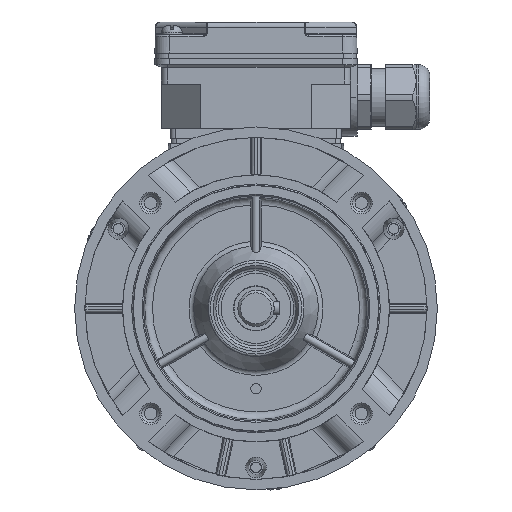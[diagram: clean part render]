
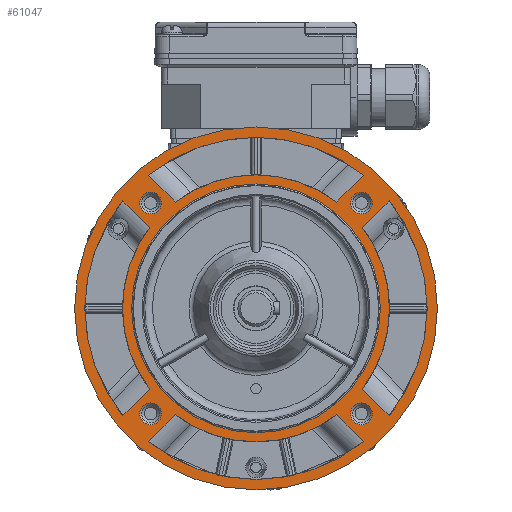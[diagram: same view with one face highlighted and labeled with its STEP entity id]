
A CAD part, front view. The second image highlights one B-rep face of the part: STEP entity #61047.
In plain terms, the highlighted planar face has unit normal (0, -1, 0).
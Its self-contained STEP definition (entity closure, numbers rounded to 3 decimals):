
#2294=LINE('',#94285,#4995);
#2295=LINE('',#94295,#4996);
#2296=LINE('',#94311,#4997);
#2297=LINE('',#94327,#4998);
#2298=LINE('',#94349,#4999);
#2299=LINE('',#94359,#5000);
#2300=LINE('',#94367,#5001);
#2301=LINE('',#94389,#5002);
#4995=VECTOR('',#73933,1000.);
#4996=VECTOR('',#73940,1000.);
#4997=VECTOR('',#73947,1000.);
#4998=VECTOR('',#73954,1000.);
#4999=VECTOR('',#73961,1000.);
#5000=VECTOR('',#73968,1000.);
#5001=VECTOR('',#73971,1000.);
#5002=VECTOR('',#73978,1000.);
#18193=ORIENTED_EDGE('',*,*,#26293,.T.);
#18194=ORIENTED_EDGE('',*,*,#26292,.T.);
#18195=ORIENTED_EDGE('',*,*,#26291,.T.);
#18196=ORIENTED_EDGE('',*,*,#26290,.T.);
#18197=ORIENTED_EDGE('',*,*,#26289,.F.);
#18198=ORIENTED_EDGE('',*,*,#26288,.F.);
#18199=ORIENTED_EDGE('',*,*,#26285,.T.);
#18200=ORIENTED_EDGE('',*,*,#26283,.T.);
#18201=ORIENTED_EDGE('',*,*,#26281,.T.);
#18202=ORIENTED_EDGE('',*,*,#26279,.F.);
#18203=ORIENTED_EDGE('',*,*,#26278,.F.);
#18204=ORIENTED_EDGE('',*,*,#26275,.T.);
#18205=ORIENTED_EDGE('',*,*,#26273,.T.);
#18206=ORIENTED_EDGE('',*,*,#26271,.F.);
#18207=ORIENTED_EDGE('',*,*,#26269,.F.);
#18208=ORIENTED_EDGE('',*,*,#26267,.T.);
#18209=ORIENTED_EDGE('',*,*,#26265,.T.);
#18210=ORIENTED_EDGE('',*,*,#26263,.F.);
#18211=ORIENTED_EDGE('',*,*,#26262,.F.);
#18212=ORIENTED_EDGE('',*,*,#26259,.T.);
#18213=ORIENTED_EDGE('',*,*,#26257,.T.);
#18214=ORIENTED_EDGE('',*,*,#26652,.T.);
#26257=EDGE_CURVE('',#31268,#31268,#33937,.F.);
#26259=EDGE_CURVE('',#31270,#31269,#33938,.T.);
#26262=EDGE_CURVE('',#31270,#31271,#2294,.T.);
#26263=EDGE_CURVE('',#31271,#31272,#33939,.T.);
#26265=EDGE_CURVE('',#31269,#31272,#2295,.T.);
#26267=EDGE_CURVE('',#31274,#31273,#33940,.T.);
#26269=EDGE_CURVE('',#31274,#31275,#2296,.T.);
#26271=EDGE_CURVE('',#31275,#31276,#33941,.T.);
#26273=EDGE_CURVE('',#31273,#31276,#2297,.T.);
#26275=EDGE_CURVE('',#31278,#31277,#33942,.T.);
#26278=EDGE_CURVE('',#31278,#31279,#2298,.T.);
#26279=EDGE_CURVE('',#31279,#31280,#33943,.T.);
#26281=EDGE_CURVE('',#31277,#31280,#2299,.T.);
#26283=EDGE_CURVE('',#31282,#31281,#2300,.T.);
#26285=EDGE_CURVE('',#31283,#31282,#33944,.T.);
#26288=EDGE_CURVE('',#31283,#31284,#2301,.T.);
#26289=EDGE_CURVE('',#31284,#31281,#33945,.T.);
#26290=EDGE_CURVE('',#31285,#31285,#33946,.F.);
#26291=EDGE_CURVE('',#31286,#31286,#33947,.F.);
#26292=EDGE_CURVE('',#31287,#31287,#33948,.F.);
#26293=EDGE_CURVE('',#31288,#31288,#33949,.F.);
#26652=EDGE_CURVE('',#31519,#31519,#34082,.T.);
#31268=VERTEX_POINT('',#94263);
#31269=VERTEX_POINT('',#94270);
#31270=VERTEX_POINT('',#94272);
#31271=VERTEX_POINT('',#94284);
#31272=VERTEX_POINT('',#94288);
#31273=VERTEX_POINT('',#94302);
#31274=VERTEX_POINT('',#94304);
#31275=VERTEX_POINT('',#94312);
#31276=VERTEX_POINT('',#94320);
#31277=VERTEX_POINT('',#94334);
#31278=VERTEX_POINT('',#94336);
#31279=VERTEX_POINT('',#94348);
#31280=VERTEX_POINT('',#94352);
#31281=VERTEX_POINT('',#94366);
#31282=VERTEX_POINT('',#94368);
#31283=VERTEX_POINT('',#94376);
#31284=VERTEX_POINT('',#94388);
#31285=VERTEX_POINT('',#94394);
#31286=VERTEX_POINT('',#94397);
#31287=VERTEX_POINT('',#94400);
#31288=VERTEX_POINT('',#94403);
#31519=VERTEX_POINT('',#96972);
#33937=CIRCLE('',#64704,48.);
#33938=CIRCLE('',#64706,51.5);
#33939=CIRCLE('',#64709,66.);
#33940=CIRCLE('',#64712,51.5);
#33941=CIRCLE('',#64715,66.);
#33942=CIRCLE('',#64718,51.5);
#33943=CIRCLE('',#64721,66.);
#33944=CIRCLE('',#64725,51.5);
#33945=CIRCLE('',#64728,66.);
#33946=CIRCLE('',#64730,4.2);
#33947=CIRCLE('',#64732,4.2);
#33948=CIRCLE('',#64734,4.2);
#33949=CIRCLE('',#64736,4.2);
#34082=CIRCLE('',#64952,70.);
#36710=EDGE_LOOP('',(#18193));
#36711=EDGE_LOOP('',(#18194));
#36712=EDGE_LOOP('',(#18195));
#36713=EDGE_LOOP('',(#18196));
#36714=EDGE_LOOP('',(#18197,#18198,#18199,#18200));
#36715=EDGE_LOOP('',(#18201,#18202,#18203,#18204));
#36716=EDGE_LOOP('',(#18205,#18206,#18207,#18208));
#36717=EDGE_LOOP('',(#18209,#18210,#18211,#18212));
#36718=EDGE_LOOP('',(#18213));
#36719=EDGE_LOOP('',(#18214));
#39665=FACE_BOUND('',#36710,.T.);
#39666=FACE_BOUND('',#36711,.T.);
#39667=FACE_BOUND('',#36712,.T.);
#39668=FACE_BOUND('',#36713,.T.);
#39669=FACE_BOUND('',#36714,.T.);
#39670=FACE_BOUND('',#36715,.T.);
#39671=FACE_BOUND('',#36716,.T.);
#39672=FACE_BOUND('',#36717,.T.);
#39673=FACE_BOUND('',#36718,.T.);
#39674=FACE_BOUND('',#36719,.T.);
#41145=PLANE('',#64951);
#61047=ADVANCED_FACE('',(#39665,#39666,#39667,#39668,#39669,#39670,#39671,
#39672,#39673,#39674),#41145,.T.);
#64704=AXIS2_PLACEMENT_3D('',#94262,#73925,#73926);
#64706=AXIS2_PLACEMENT_3D('',#94271,#73929,#73930);
#64709=AXIS2_PLACEMENT_3D('',#94287,#73936,#73937);
#64712=AXIS2_PLACEMENT_3D('',#94303,#73943,#73944);
#64715=AXIS2_PLACEMENT_3D('',#94319,#73950,#73951);
#64718=AXIS2_PLACEMENT_3D('',#94335,#73957,#73958);
#64721=AXIS2_PLACEMENT_3D('',#94351,#73964,#73965);
#64725=AXIS2_PLACEMENT_3D('',#94375,#73974,#73975);
#64728=AXIS2_PLACEMENT_3D('',#94391,#73981,#73982);
#64730=AXIS2_PLACEMENT_3D('',#94393,#73985,#73986);
#64732=AXIS2_PLACEMENT_3D('',#94396,#73989,#73990);
#64734=AXIS2_PLACEMENT_3D('',#94399,#73993,#73994);
#64736=AXIS2_PLACEMENT_3D('',#94402,#73997,#73998);
#64951=AXIS2_PLACEMENT_3D('',#96970,#74471,#74472);
#64952=AXIS2_PLACEMENT_3D('',#96971,#74473,#74474);
#73925=DIRECTION('',(0.,-1.,0.));
#73926=DIRECTION('',(0.,0.,1.));
#73929=DIRECTION('',(0.,-1.,0.));
#73930=DIRECTION('',(0.,0.,1.));
#73933=DIRECTION('',(0.707,0.,0.707));
#73936=DIRECTION('',(0.,-1.,0.));
#73937=DIRECTION('',(0.,0.,1.));
#73940=DIRECTION('',(-0.707,0.,0.707));
#73943=DIRECTION('',(0.,-1.,0.));
#73944=DIRECTION('',(0.,0.,1.));
#73947=DIRECTION('',(-0.707,0.,0.707));
#73950=DIRECTION('',(0.,-1.,0.));
#73951=DIRECTION('',(0.,0.,1.));
#73954=DIRECTION('',(-0.707,0.,-0.707));
#73957=DIRECTION('',(0.,-1.,0.));
#73958=DIRECTION('',(0.,0.,1.));
#73961=DIRECTION('',(-0.707,0.,-0.707));
#73964=DIRECTION('',(0.,-1.,0.));
#73965=DIRECTION('',(0.,0.,1.));
#73968=DIRECTION('',(0.707,0.,-0.707));
#73971=DIRECTION('',(0.707,0.,0.707));
#73974=DIRECTION('',(0.,-1.,0.));
#73975=DIRECTION('',(0.,0.,1.));
#73978=DIRECTION('',(0.707,0.,-0.707));
#73981=DIRECTION('',(0.,-1.,0.));
#73982=DIRECTION('',(0.,0.,1.));
#73985=DIRECTION('',(0.,-1.,0.));
#73986=DIRECTION('',(0.,0.,1.));
#73989=DIRECTION('',(0.,-1.,0.));
#73990=DIRECTION('',(0.,0.,1.));
#73993=DIRECTION('',(0.,-1.,0.));
#73994=DIRECTION('',(0.,0.,1.));
#73997=DIRECTION('',(0.,-1.,0.));
#73998=DIRECTION('',(0.,0.,1.));
#74471=DIRECTION('',(0.,-1.,0.));
#74472=DIRECTION('',(0.,0.,1.));
#74473=DIRECTION('',(0.,-1.,0.));
#74474=DIRECTION('',(0.,0.,1.));
#94262=CARTESIAN_POINT('',(0.,-90.,0.));
#94263=CARTESIAN_POINT('',(0.,-90.,48.));
#94270=CARTESIAN_POINT('',(-31.128,-90.,41.028));
#94271=CARTESIAN_POINT('',(0.,-90.,0.));
#94272=CARTESIAN_POINT('',(31.128,-90.,41.028));
#94284=CARTESIAN_POINT('',(41.456,-90.,51.356));
#94285=CARTESIAN_POINT('',(29.217,-90.,39.116));
#94287=CARTESIAN_POINT('',(0.,-90.,0.));
#94288=CARTESIAN_POINT('',(-41.456,-90.,51.356));
#94295=CARTESIAN_POINT('',(-29.217,-90.,39.116));
#94302=CARTESIAN_POINT('',(-41.028,-90.,-31.128));
#94303=CARTESIAN_POINT('',(0.,-90.,0.));
#94304=CARTESIAN_POINT('',(-41.028,-90.,31.128));
#94311=CARTESIAN_POINT('',(-39.116,-90.,29.217));
#94312=CARTESIAN_POINT('',(-51.356,-90.,41.456));
#94319=CARTESIAN_POINT('',(0.,-90.,0.));
#94320=CARTESIAN_POINT('',(-51.356,-90.,-41.456));
#94327=CARTESIAN_POINT('',(-39.116,-90.,-29.217));
#94334=CARTESIAN_POINT('',(31.128,-90.,-41.028));
#94335=CARTESIAN_POINT('',(0.,-90.,0.));
#94336=CARTESIAN_POINT('',(-31.128,-90.,-41.028));
#94348=CARTESIAN_POINT('',(-41.456,-90.,-51.356));
#94349=CARTESIAN_POINT('',(-29.217,-90.,-39.116));
#94351=CARTESIAN_POINT('',(0.,-90.,0.));
#94352=CARTESIAN_POINT('',(41.456,-90.,-51.356));
#94359=CARTESIAN_POINT('',(29.217,-90.,-39.116));
#94366=CARTESIAN_POINT('',(51.356,-90.,41.456));
#94367=CARTESIAN_POINT('',(39.116,-90.,29.217));
#94368=CARTESIAN_POINT('',(41.028,-90.,31.128));
#94375=CARTESIAN_POINT('',(0.,-90.,0.));
#94376=CARTESIAN_POINT('',(41.028,-90.,-31.128));
#94388=CARTESIAN_POINT('',(51.356,-90.,-41.456));
#94389=CARTESIAN_POINT('',(39.116,-90.,-29.217));
#94391=CARTESIAN_POINT('',(0.,-90.,0.));
#94393=CARTESIAN_POINT('',(-40.659,-90.,40.659));
#94394=CARTESIAN_POINT('',(-40.659,-90.,44.859));
#94396=CARTESIAN_POINT('',(40.659,-90.,40.659));
#94397=CARTESIAN_POINT('',(40.659,-90.,44.859));
#94399=CARTESIAN_POINT('',(40.659,-90.,-40.659));
#94400=CARTESIAN_POINT('',(40.659,-90.,-36.459));
#94402=CARTESIAN_POINT('',(-40.659,-90.,-40.659));
#94403=CARTESIAN_POINT('',(-40.659,-90.,-36.459));
#96970=CARTESIAN_POINT('',(0.,-90.,47.5));
#96971=CARTESIAN_POINT('',(0.,-90.,0.));
#96972=CARTESIAN_POINT('',(0.,-90.,70.));
